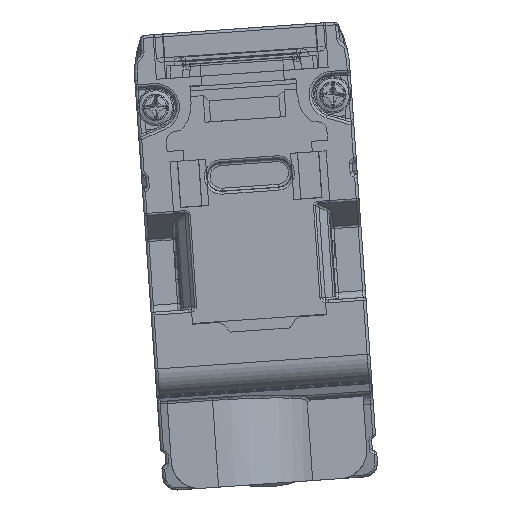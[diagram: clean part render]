
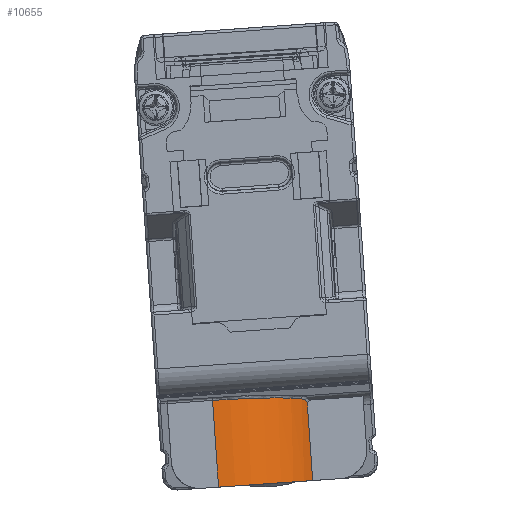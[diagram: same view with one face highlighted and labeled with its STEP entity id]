
A CAD part, front view. The second image highlights one B-rep face of the part: STEP entity #10655.
In plain terms, the highlighted cylindrical face has radius 7.5 mm (diameter 15 mm), a partial arc.
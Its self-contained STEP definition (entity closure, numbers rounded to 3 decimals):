
#6775=CYLINDRICAL_SURFACE('',#78740,7.5);
#7915=B_SPLINE_CURVE_WITH_KNOTS('',3,(#120905,#120906,#120907,#120908,#120909,
#120910,#120911),.UNSPECIFIED.,.F.,.F.,(4,3,4),(0.,0.485,1.),
 .UNSPECIFIED.);
#8915=ELLIPSE('',#78738,7.53,7.5);
#10655=ADVANCED_FACE('',(#16428),#6775,.T.);
#16428=FACE_OUTER_BOUND('',#20459,.T.);
#20459=EDGE_LOOP('',(#33366,#33367,#33368,#33369,#33370));
#24669=CIRCLE('',#78739,7.5);
#33366=ORIENTED_EDGE('',*,*,#57099,.T.);
#33367=ORIENTED_EDGE('',*,*,#57100,.T.);
#33368=ORIENTED_EDGE('',*,*,#57101,.T.);
#33369=ORIENTED_EDGE('',*,*,#57102,.T.);
#33370=ORIENTED_EDGE('',*,*,#57103,.F.);
#49326=VERTEX_POINT('',#120903);
#49327=VERTEX_POINT('',#120904);
#49328=VERTEX_POINT('',#120912);
#49329=VERTEX_POINT('',#120914);
#49330=VERTEX_POINT('',#120916);
#57099=EDGE_CURVE('',#49326,#49327,#65877,.T.);
#57100=EDGE_CURVE('',#49327,#49328,#7915,.T.);
#57101=EDGE_CURVE('',#49328,#49329,#8915,.T.);
#57102=EDGE_CURVE('',#49329,#49330,#65878,.T.);
#57103=EDGE_CURVE('',#49326,#49330,#24669,.T.);
#65877=LINE('',#120902,#71484);
#65878=LINE('',#120915,#71485);
#71484=VECTOR('',#90526,1.);
#71485=VECTOR('',#90529,1.);
#78738=AXIS2_PLACEMENT_3D('',#120913,#90527,#90528);
#78739=AXIS2_PLACEMENT_3D('',#120917,#90530,#90531);
#78740=AXIS2_PLACEMENT_3D('',#120918,#90532,#90533);
#90526=DIRECTION('',(-0.07,0.,0.998));
#90527=DIRECTION('',(0.069,-0.089,-0.994));
#90528=DIRECTION('',(0.006,0.996,-0.089));
#90529=DIRECTION('',(0.07,0.,-0.998));
#90530=DIRECTION('',(0.07,0.,-0.998));
#90531=DIRECTION('',(0.998,0.,0.07));
#90532=DIRECTION('',(0.07,0.,-0.998));
#90533=DIRECTION('',(0.,-1.,0.));
#120902=CARTESIAN_POINT('',(-40.701,-410.597,14.888));
#120903=CARTESIAN_POINT('',(-40.701,-410.597,14.888));
#120904=CARTESIAN_POINT('',(-41.088,-410.597,20.435));
#120905=CARTESIAN_POINT('',(-41.088,-410.597,20.435));
#120906=CARTESIAN_POINT('',(-41.139,-410.686,20.528));
#120907=CARTESIAN_POINT('',(-41.198,-410.793,20.603));
#120908=CARTESIAN_POINT('',(-41.263,-410.905,20.654));
#120909=CARTESIAN_POINT('',(-41.332,-411.024,20.708));
#120910=CARTESIAN_POINT('',(-41.408,-411.152,20.738));
#120911=CARTESIAN_POINT('',(-41.487,-411.278,20.743));
#120912=CARTESIAN_POINT('',(-41.487,-411.278,20.743));
#120913=CARTESIAN_POINT('',(-47.816,-407.318,19.944));
#120914=CARTESIAN_POINT('',(-47.863,-414.818,20.616));
#120915=CARTESIAN_POINT('',(-47.667,-414.818,17.815));
#120916=CARTESIAN_POINT('',(-47.43,-414.818,14.418));
#120917=CARTESIAN_POINT('',(-47.43,-407.318,14.418));
#120918=CARTESIAN_POINT('',(-52.434,-407.318,85.982));
